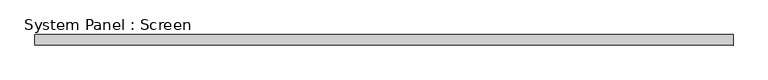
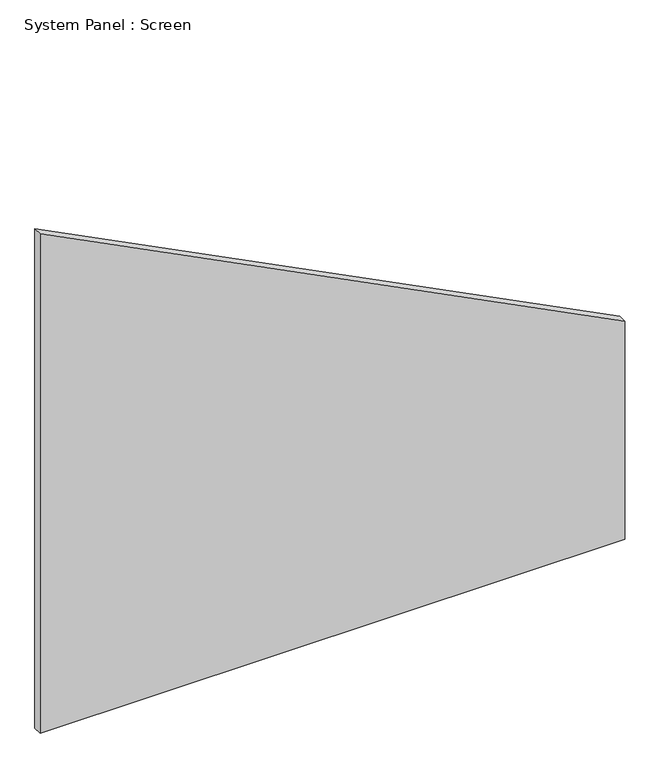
"""IFC4 building model written with IfcOpenShell, lengths in millimetres: plate geometry, System Panel : Screen."""

from ifc_helpers import new_model, si_unit, frame, origin, place, context, project, spatial, polyline, outline, extrude, source, transform, mapped, element, save


def system_panel_screen_32e33c9f(model_context):
    return source(origin(), model_context, "Body", "SweptSolid", [
        extrude(outline(polyline([(0.0, -838.8250433), (0.0, 838.8250433), (661.8413206, 838.8250433), (1514.6194278, -838.8250433), (0.0, -838.8250433)])), frame((0.0, -12.7, 0.0), z_axis=(0.0, 1.0, 0.0), x_axis=(0.0, 0.0, 1.0)), (0.0, 0.0, 1.0), 25.4),
    ])


if __name__ == "__main__":
    model = new_model("IFC4")
    model_context = context("Model", 3, world=origin())
    ifc_project = project(units=[si_unit("LENGTHUNIT", "METRE", prefix="MILLI")], contexts=[model_context])
    site = spatial("IfcSite", under=ifc_project)
    building = spatial("IfcBuilding", under=site)
    placement = place(None, origin())
    system_panel_screen_shape = system_panel_screen_32e33c9f(model_context)
    element("IfcPlate", 1, ObjectType="System Panel : Screen", at=placement, inside=building, context=model_context, shape_type="MappedRepresentation", body=[
        mapped(system_panel_screen_shape, transform((0.0, 0.0, 0.0), x_axis=(1.0, 0.0, 0.0), y_axis=(0.0, 1.0, 0.0), z_axis=(0.0, 0.0, 1.0))),
    ])
    save(model, "model.ifc")
